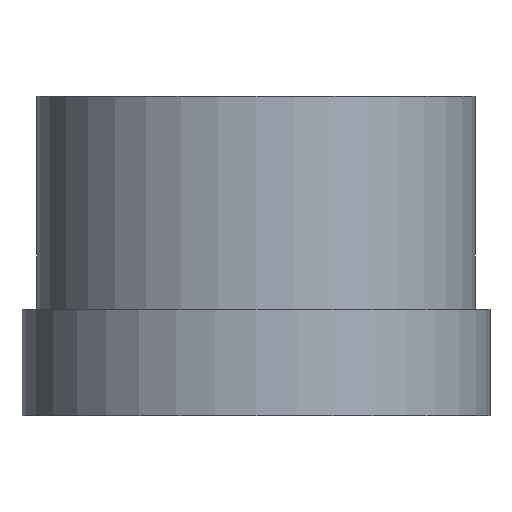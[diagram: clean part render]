
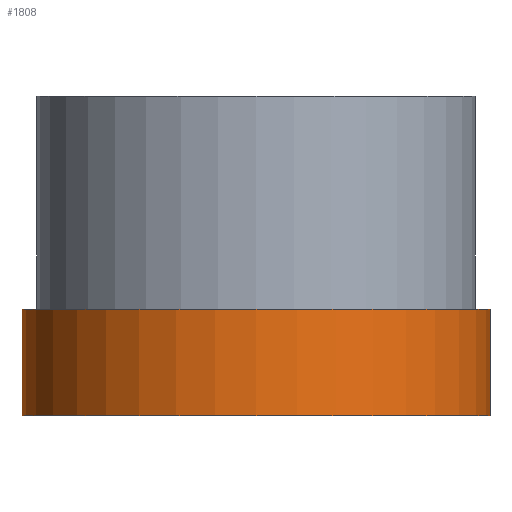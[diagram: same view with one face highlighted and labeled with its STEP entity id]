
A CAD part, front view. The second image highlights one B-rep face of the part: STEP entity #1808.
In plain terms, the highlighted cylindrical face has radius 11 mm (diameter 22 mm), a full revolution.
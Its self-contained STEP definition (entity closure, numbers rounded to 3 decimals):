
#315=FACE_OUTER_BOUND('',#422,.T.);
#422=EDGE_LOOP('',(#1677,#1678,#1679,#1680,#1681,#1682));
#468=CIRCLE('',#1912,11.);
#469=CIRCLE('',#1913,11.);
#470=CIRCLE('',#1915,11.);
#471=CIRCLE('',#1916,11.);
#588=LINE('',#4401,#702);
#702=VECTOR('',#2208,11.);
#879=VERTEX_POINT('',#4392);
#880=VERTEX_POINT('',#4393);
#881=VERTEX_POINT('',#4397);
#882=VERTEX_POINT('',#4398);
#1147=EDGE_CURVE('',#879,#880,#468,.T.);
#1148=EDGE_CURVE('',#880,#879,#469,.T.);
#1149=EDGE_CURVE('',#881,#882,#470,.T.);
#1150=EDGE_CURVE('',#882,#881,#471,.T.);
#1151=EDGE_CURVE('',#882,#880,#588,.T.);
#1677=ORIENTED_EDGE('',*,*,#1149,.F.);
#1678=ORIENTED_EDGE('',*,*,#1150,.F.);
#1679=ORIENTED_EDGE('',*,*,#1151,.T.);
#1680=ORIENTED_EDGE('',*,*,#1148,.T.);
#1681=ORIENTED_EDGE('',*,*,#1147,.T.);
#1682=ORIENTED_EDGE('',*,*,#1151,.F.);
#1706=CYLINDRICAL_SURFACE('',#1914,11.);
#1808=ADVANCED_FACE('',(#315),#1706,.T.);
#1912=AXIS2_PLACEMENT_3D('',#4394,#2198,#2199);
#1913=AXIS2_PLACEMENT_3D('',#4395,#2200,#2201);
#1914=AXIS2_PLACEMENT_3D('',#4396,#2202,#2203);
#1915=AXIS2_PLACEMENT_3D('',#4399,#2204,#2205);
#1916=AXIS2_PLACEMENT_3D('',#4400,#2206,#2207);
#2198=DIRECTION('center_axis',(0.,0.,-1.));
#2199=DIRECTION('ref_axis',(1.,0.,0.));
#2200=DIRECTION('center_axis',(0.,0.,-1.));
#2201=DIRECTION('ref_axis',(1.,0.,0.));
#2202=DIRECTION('center_axis',(0.,0.,-1.));
#2203=DIRECTION('ref_axis',(0.,1.,0.));
#2204=DIRECTION('center_axis',(0.,0.,-1.));
#2205=DIRECTION('ref_axis',(1.,0.,0.));
#2206=DIRECTION('center_axis',(0.,0.,-1.));
#2207=DIRECTION('ref_axis',(1.,0.,0.));
#2208=DIRECTION('',(0.,0.,1.));
#4392=CARTESIAN_POINT('',(0.,11.,5.));
#4393=CARTESIAN_POINT('',(0.,-11.,5.));
#4394=CARTESIAN_POINT('Origin',(0.,0.,5.));
#4395=CARTESIAN_POINT('Origin',(0.,0.,5.));
#4396=CARTESIAN_POINT('Origin',(0.,0.,2.5));
#4397=CARTESIAN_POINT('',(0.,11.,0.));
#4398=CARTESIAN_POINT('',(0.,-11.,0.));
#4399=CARTESIAN_POINT('Origin',(0.,0.,0.));
#4400=CARTESIAN_POINT('Origin',(0.,0.,0.));
#4401=CARTESIAN_POINT('',(0.,-11.,2.5));
